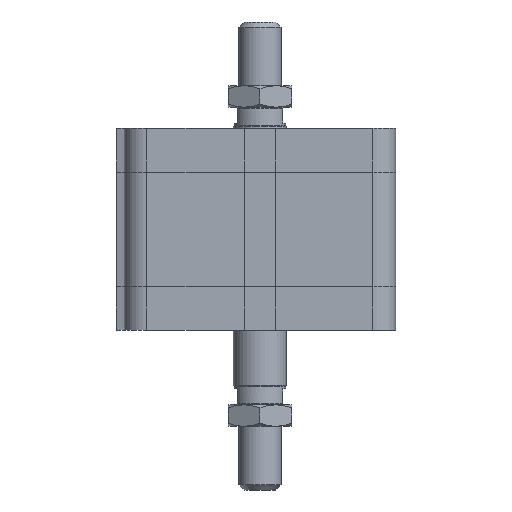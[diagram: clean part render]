
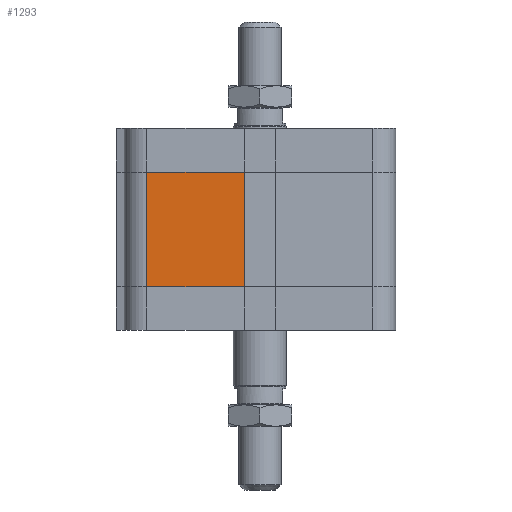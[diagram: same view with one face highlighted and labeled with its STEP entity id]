
A CAD part, left-side view. The second image highlights one B-rep face of the part: STEP entity #1293.
In plain terms, the highlighted planar face has unit normal (-1, 0, 0).
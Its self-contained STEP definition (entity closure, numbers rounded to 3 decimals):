
#1204=CARTESIAN_POINT('',(-51.0,42.5,16.5));
#1205=VERTEX_POINT('',#1204);
#1213=CARTESIAN_POINT('',(-51.0,42.5,59.5));
#1214=VERTEX_POINT('',#1213);
#1215=CARTESIAN_POINT('',(-51.0,42.5,16.5));
#1216=DIRECTION('',(0.0,0.0,1.0));
#1217=VECTOR('',#1216,43.);
#1218=LINE('',#1215,#1217);
#1219=EDGE_CURVE('',#1205,#1214,#1218,.T.);
#1263=CARTESIAN_POINT('',(-51.,6.,0.0));
#1264=DIRECTION('',(-1.0,0.0,0.0));
#1265=DIRECTION('',(0.0,0.0,1.0));
#1266=AXIS2_PLACEMENT_3D('',#1263,#1264,#1265);
#1267=PLANE('',#1266);
#1268=CARTESIAN_POINT('',(-51.,6.,16.5));
#1269=VERTEX_POINT('',#1268);
#1270=CARTESIAN_POINT('',(-51.0,42.5,16.5));
#1271=DIRECTION('',(0.0,-1.0,0.0));
#1272=VECTOR('',#1271,36.5);
#1273=LINE('',#1270,#1272);
#1274=EDGE_CURVE('',#1205,#1269,#1273,.T.);
#1275=ORIENTED_EDGE('',*,*,#1274,.T.);
#1276=CARTESIAN_POINT('',(-51.,6.,59.5));
#1277=VERTEX_POINT('',#1276);
#1278=CARTESIAN_POINT('',(-51.,6.,16.5));
#1279=DIRECTION('',(0.0,0.0,1.0));
#1280=VECTOR('',#1279,43.);
#1281=LINE('',#1278,#1280);
#1282=EDGE_CURVE('',#1269,#1277,#1281,.T.);
#1283=ORIENTED_EDGE('',*,*,#1282,.T.);
#1284=CARTESIAN_POINT('',(-51.0,42.5,59.5));
#1285=DIRECTION('',(0.0,-1.0,0.0));
#1286=VECTOR('',#1285,36.5);
#1287=LINE('',#1284,#1286);
#1288=EDGE_CURVE('',#1214,#1277,#1287,.T.);
#1289=ORIENTED_EDGE('',*,*,#1288,.F.);
#1290=ORIENTED_EDGE('',*,*,#1219,.F.);
#1291=EDGE_LOOP('',(#1275,#1283,#1289,#1290));
#1292=FACE_OUTER_BOUND('',#1291,.T.);
#1293=ADVANCED_FACE('',(#1292),#1267,.T.);
